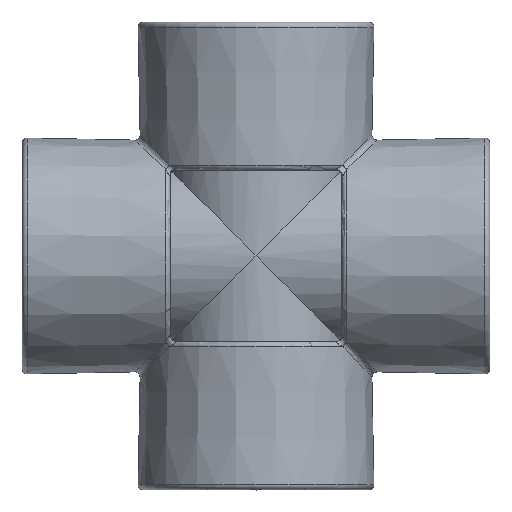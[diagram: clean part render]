
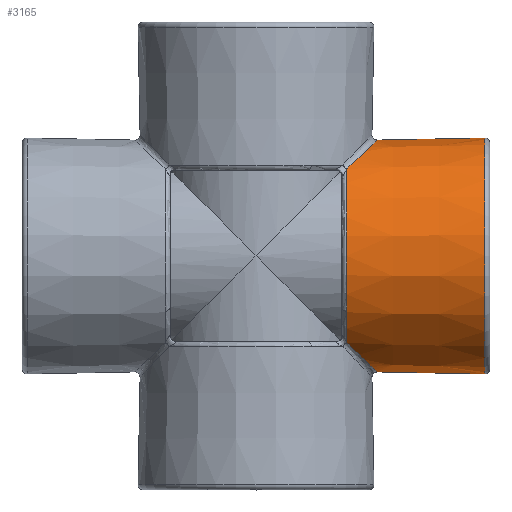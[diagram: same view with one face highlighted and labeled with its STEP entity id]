
A CAD part, top view. The second image highlights one B-rep face of the part: STEP entity #3165.
In plain terms, the highlighted conical face has half-angle 1.087 degrees and reference radius 22.85 mm.
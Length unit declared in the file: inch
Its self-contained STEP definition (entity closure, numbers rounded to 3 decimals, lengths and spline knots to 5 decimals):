
#196=B_SPLINE_CURVE_WITH_KNOTS('',3,(#4247,#4248,#4249,#4250,#4251,#4252,
#4253,#4254,#4255,#4256,#4257,#4258,#4259,#4260,#4261,#4262,#4263,#4264,
#4265,#4266,#4267,#4268),.UNSPECIFIED.,.F.,.U.,(4,3,3,3,3,3,3,4),(0.,0.25099,
0.27045,0.40576,0.69829,0.8,0.80166,
1.),.UNSPECIFIED.);
#197=B_SPLINE_CURVE_WITH_KNOTS('',3,(#4271,#4272,#4273,#4274,#4275,#4276,
#4277,#4278,#4279,#4280,#4281,#4282),.UNSPECIFIED.,.F.,.U.,(4,1,1,1,1,1,
1,1,1,4),(0.,0.11111,0.22222,0.33333,0.44444,
0.55556,0.66667,0.77778,0.88889,1.),
 .UNSPECIFIED.);
#515=CIRCLE('',#3385,0.88951);
#516=CIRCLE('',#3386,0.90967);
#591=VERTEX_POINT('',#3568);
#592=VERTEX_POINT('',#3570);
#593=VERTEX_POINT('',#3574);
#594=VERTEX_POINT('',#3576);
#600=VERTEX_POINT('',#4246);
#601=VERTEX_POINT('',#4270);
#907=VECTOR('',#56354,1.);
#908=VECTOR('',#56355,1.);
#1016=LINE('',#3573,#907);
#1017=LINE('',#3575,#908);
#1136=EDGE_CURVE('',#591,#593,#1016,.T.);
#1137=EDGE_CURVE('',#592,#594,#1017,.T.);
#1146=EDGE_CURVE('',#600,#593,#196,.F.);
#1147=EDGE_CURVE('',#601,#600,#515,.F.);
#1148=EDGE_CURVE('',#594,#601,#197,.T.);
#1149=EDGE_CURVE('',#592,#591,#516,.F.);
#1683=ORIENTED_EDGE('',*,*,#1147,.F.);
#1684=ORIENTED_EDGE('',*,*,#1148,.F.);
#1685=ORIENTED_EDGE('',*,*,#1137,.F.);
#1686=ORIENTED_EDGE('',*,*,#1149,.T.);
#1687=ORIENTED_EDGE('',*,*,#1136,.T.);
#1688=ORIENTED_EDGE('',*,*,#1146,.F.);
#2726=EDGE_LOOP('',(#1683,#1684,#1685,#1686,#1687,#1688));
#2946=FACE_BOUND('',#2726,.T.);
#3165=ADVANCED_FACE('',(#2946),#56712,.T.);
#3383=AXIS2_PLACEMENT_3D('',#3572,#56352,#56353);
#3385=AXIS2_PLACEMENT_3D('',#4269,#56358,#56359);
#3386=AXIS2_PLACEMENT_3D('',#4283,#56360,#56361);
#3568=CARTESIAN_POINT('',(1.76303,0.90967,0.));
#3570=CARTESIAN_POINT('',(1.76303,-0.90967,0.));
#3572=CARTESIAN_POINT('',(1.23154,0.,0.));
#3573=CARTESIAN_POINT('',(1.76303,0.90967,0.));
#3574=CARTESIAN_POINT('',(0.93406,0.89395,0.));
#3575=CARTESIAN_POINT('',(1.76303,-0.90967,0.));
#3576=CARTESIAN_POINT('',(0.93406,-0.89395,0.));
#4246=CARTESIAN_POINT('',(0.70004,0.66966,0.58548));
#4247=CARTESIAN_POINT('',(0.93406,0.89395,0.));
#4248=CARTESIAN_POINT('',(0.93406,0.89395,0.05796));
#4249=CARTESIAN_POINT('',(0.92795,0.88809,0.11601));
#4250=CARTESIAN_POINT('',(0.91633,0.87696,0.17174));
#4251=CARTESIAN_POINT('',(0.91543,0.87609,0.17606));
#4252=CARTESIAN_POINT('',(0.9145,0.8752,0.18037));
#4253=CARTESIAN_POINT('',(0.91353,0.87427,0.18466));
#4254=CARTESIAN_POINT('',(0.90682,0.86784,0.21452));
#4255=CARTESIAN_POINT('',(0.89855,0.85991,0.24369));
#4256=CARTESIAN_POINT('',(0.88891,0.85067,0.27198));
#4257=CARTESIAN_POINT('',(0.86808,0.8307,0.33314));
#4258=CARTESIAN_POINT('',(0.84088,0.80463,0.39006));
#4259=CARTESIAN_POINT('',(0.8094,0.77446,0.44174));
#4260=CARTESIAN_POINT('',(0.79846,0.76397,0.45972));
#4261=CARTESIAN_POINT('',(0.78699,0.75298,0.47708));
#4262=CARTESIAN_POINT('',(0.77507,0.74156,0.49382));
#4263=CARTESIAN_POINT('',(0.77487,0.74137,0.49409));
#4264=CARTESIAN_POINT('',(0.77468,0.74119,0.49436));
#4265=CARTESIAN_POINT('',(0.77448,0.741,0.49464));
#4266=CARTESIAN_POINT('',(0.75121,0.7187,0.52725));
#4267=CARTESIAN_POINT('',(0.72624,0.69476,0.55752));
#4268=CARTESIAN_POINT('',(0.70004,0.66966,0.58548));
#4269=CARTESIAN_POINT('',(0.70004,0.,0.));
#4270=CARTESIAN_POINT('',(0.70004,-0.66966,0.58548));
#4271=CARTESIAN_POINT('',(0.93406,-0.89395,0.));
#4272=CARTESIAN_POINT('',(0.93406,-0.89395,0.03028));
#4273=CARTESIAN_POINT('',(0.93078,-0.8908,0.08759));
#4274=CARTESIAN_POINT('',(0.91925,-0.87975,0.16234));
#4275=CARTESIAN_POINT('',(0.90341,-0.86457,0.2281));
#4276=CARTESIAN_POINT('',(0.88337,-0.84536,0.29036));
#4277=CARTESIAN_POINT('',(0.85672,-0.81982,0.355));
#4278=CARTESIAN_POINT('',(0.82579,-0.79017,0.41539));
#4279=CARTESIAN_POINT('',(0.79147,-0.75728,0.47145));
#4280=CARTESIAN_POINT('',(0.75141,-0.71888,0.52713));
#4281=CARTESIAN_POINT('',(0.7182,-0.68706,0.5661));
#4282=CARTESIAN_POINT('',(0.70004,-0.66966,0.58548));
#4283=CARTESIAN_POINT('',(1.76303,0.,0.));
#56352=DIRECTION('',(1.,0.,0.));
#56353=DIRECTION('',(0.,-0.9,0.));
#56354=DIRECTION('',(-1.,-0.019,0.));
#56355=DIRECTION('',(-1.,0.019,0.));
#56358=DIRECTION('',(1.,0.,0.));
#56359=DIRECTION('',(0.,-0.89,0.));
#56360=DIRECTION('',(1.,0.,0.));
#56361=DIRECTION('',(0.,-0.91,0.));
#56712=CONICAL_SURFACE('',#3383,0.89959,0.019);
